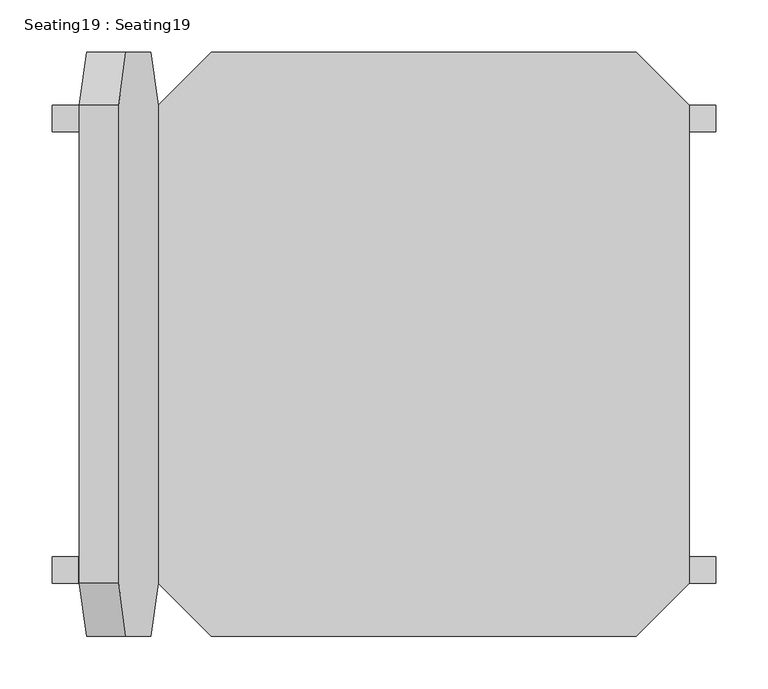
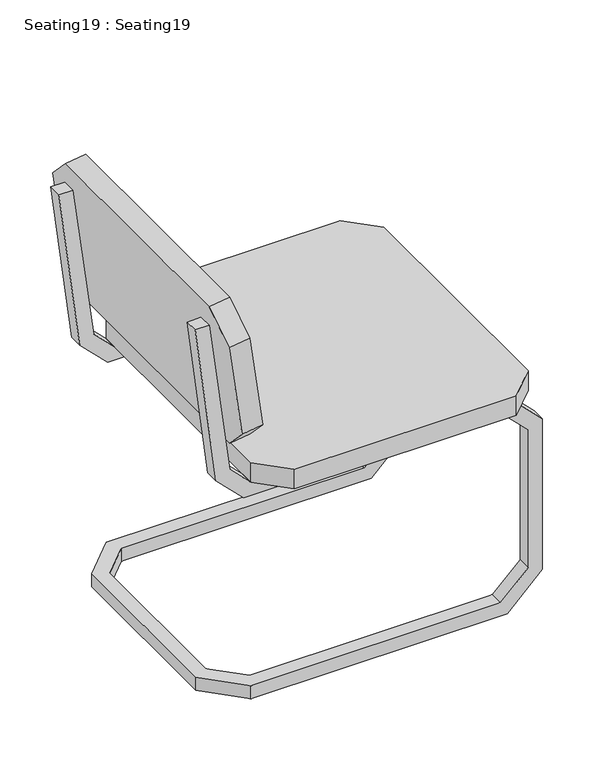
"""IFC4 building model written with IfcOpenShell, lengths in millimetres: furniture geometry, Seating19 : Seating19."""

from ifc_helpers import new_model, si_unit, origin, place, context, project, spatial, triangles, source, transform, mapped, element, save


def seating19_seating19_2658793b(model_context):
    return source(origin(), model_context, "Body", "Tessellation", [
        triangles([(-507.9999879, -228.6000182, 25.4000212), (-507.9999879, -228.6000182, 2e-05), (-50.8000015, -228.6000182, 25.4000212), (-38.1, -228.6000182, 2e-05), (0.0, -228.6000182, 76.2000182), (25.4000008, -228.6000182, 63.5000167), (0.0, -228.6, 342.9000363), (25.4000008, -228.6, 355.6000242), (-50.8000015, -228.6, 393.7000242), (-38.1, -228.6, 419.1), (-507.9999879, -228.6, 419.1), (-520.7000121, -228.6, 393.7000242), (-546.0999879, -228.6, 457.2), (-571.5, -228.6, 444.5000121), (-584.1999879, -228.5999818, 749.2999758), (-609.6, -228.5999818, 749.2999758), (-584.1999879, -203.1999697, 749.2999758), (-546.0999879, -203.1999879, 457.2), (-609.6, -203.1999697, 749.2999758), (-571.5, -203.1999879, 444.5000121), (-507.9999879, -203.2000061, 419.1), (-520.7000121, -203.2000061, 393.7000242), (-50.8000015, -203.2000061, 393.7000242), (-38.1, -203.2000061, 419.1), (0.0, -203.2000061, 342.9000363), (25.4000008, -203.2000061, 355.6000242), (0.0, -203.2000242, 76.2000182), (25.4000008, -203.2000242, 63.5000167), (-50.8000015, -203.2000242, 25.4000189), (-38.1, -203.2000242, 1.78e-05), (-495.3, -203.2000242, 1.78e-05), (-495.3, -203.2000242, 25.4000189), (-571.5, -165.1000424, 25.4000144), (-546.0999879, -152.4000363, 25.4000121), (-571.5, 165.0999697, 25.3999849), (-546.0999879, 152.3999637, 25.3999871), (-571.5, -165.1000424, 1.44e-05), (-571.5, 165.0999697, -1.44e-05), (-546.0999879, 152.3999637, -1.33e-05), (-546.0999879, -152.4000363, 1.33e-05), (0.0, 228.5999818, 76.1999818), (0.0, 203.1999697, 76.1999818), (0.0, 203.2000061, 342.8999637), (0.0, 228.6, 342.8999637), (-50.8000015, 228.5999818, 25.3999803), (-50.8000015, 203.1999697, 25.3999826), (-507.9999879, 228.5999818, 25.3999803), (-495.3, 203.1999697, 25.3999826), (-38.1, 228.5999818, -2e-05), (-38.1, 203.1999697, -1.78e-05), (-495.3, 203.1999697, -1.78e-05), (-507.9999879, 228.5999818, -2e-05), (25.4000008, 228.5999818, 63.4999803), (25.4000008, 203.1999697, 63.4999803), (25.4000008, 228.6, 355.5999879), (25.4000008, 203.2000061, 355.5999879), (-50.8000015, 203.2000061, 393.6999879), (-50.8000015, 228.6, 393.6999879), (-520.7000121, 203.2000061, 393.6999879), (-520.7000121, 228.6, 393.6999879), (-571.5, 203.2000061, 444.5000121), (-571.5, 228.6, 444.5000121), (-609.6, 203.2000242, 749.2999758), (-609.6, 228.6000182, 749.2999758), (-584.1999879, 203.2000242, 749.2999758), (-584.1999879, 228.6000182, 749.2999758), (-38.1, 228.6, 419.1), (-38.1, 203.2000061, 419.1), (-507.9999879, 228.6, 419.1), (-507.9999879, 203.2000061, 419.1), (-546.0999879, 228.6, 457.2), (-546.0999879, 203.2000061, 457.2)], [[1, 2, 3], [4, 3, 2], [5, 3, 6], [4, 6, 3], [7, 5, 8], [6, 8, 5], [9, 7, 8], [8, 10, 9], [11, 12, 9], [9, 10, 11], [11, 13, 14], [14, 12, 11], [13, 15, 16], [16, 14, 13], [17, 18, 19], [20, 19, 18], [18, 21, 20], [22, 20, 21], [22, 21, 23], [24, 23, 21], [25, 23, 26], [24, 26, 23], [27, 25, 26], [26, 28, 27], [29, 27, 28], [28, 30, 29], [31, 32, 29], [29, 30, 31], [17, 15, 18], [13, 18, 15], [18, 13, 11], [11, 21, 18], [21, 11, 24], [10, 24, 11], [24, 10, 8], [8, 26, 24], [19, 16, 17], [15, 17, 16], [16, 19, 20], [20, 14, 16], [14, 20, 12], [22, 12, 20], [12, 22, 23], [23, 9, 12], [23, 25, 7], [7, 9, 23], [26, 8, 28], [6, 28, 8], [28, 6, 4], [4, 30, 28], [30, 4, 31], [2, 31, 4], [32, 1, 29], [3, 29, 1], [29, 3, 5], [5, 27, 29], [27, 5, 25], [7, 25, 5], [33, 1, 34], [32, 34, 1], [35, 33, 36], [34, 36, 33], [37, 38, 39], [39, 40, 37], [2, 37, 40], [40, 31, 2], [32, 31, 34], [40, 34, 31], [34, 40, 39], [39, 36, 34], [2, 1, 33], [33, 37, 2], [37, 33, 38], [35, 38, 33], [41, 42, 43], [43, 44, 41], [45, 46, 41], [42, 41, 46], [47, 48, 46], [46, 45, 47], [49, 50, 51], [51, 52, 49], [53, 54, 49], [50, 49, 54], [55, 56, 54], [54, 53, 55], [43, 57, 44], [58, 44, 57], [59, 60, 57], [58, 57, 60], [61, 62, 60], [60, 59, 61], [63, 64, 61], [62, 61, 64], [64, 63, 65], [65, 66, 64], [67, 68, 55], [56, 55, 68], [69, 70, 68], [68, 67, 69], [71, 72, 69], [70, 69, 72], [66, 65, 72], [72, 71, 66], [48, 51, 46], [50, 46, 51], [42, 46, 54], [50, 54, 46], [43, 42, 56], [54, 56, 42], [57, 43, 56], [56, 68, 57], [70, 59, 57], [57, 68, 70], [70, 72, 61], [61, 59, 70], [72, 65, 63], [63, 61, 72], [66, 71, 64], [62, 64, 71], [71, 69, 62], [60, 62, 69], [60, 69, 58], [67, 58, 69], [44, 58, 55], [67, 55, 58], [41, 44, 55], [55, 53, 41], [45, 41, 53], [53, 49, 45], [52, 47, 45], [45, 49, 52], [47, 52, 35], [38, 35, 52], [51, 48, 36], [36, 39, 51], [38, 52, 39], [51, 39, 52], [47, 35, 36], [36, 48, 47]]),
        triangles([(0.0, -228.6000182, 419.1), (-507.9999879, -228.6000182, 419.1), (-507.9999879, 228.5999818, 419.1), (0.0, 228.5999818, 419.1), (-457.2, -279.4000242, 419.1000363), (-50.8000015, -279.4000242, 419.1000363), (-457.2, 279.3999697, 419.0999637), (-50.8000015, 279.3999697, 419.0999637), (-583.5984984, 228.6000182, 784.8722231), (-576.780528, 279.4000061, 734.5317638), (-552.9178857, 279.4000061, 558.3403381), (-546.0999879, 228.6, 507.9999879), (-576.780528, -279.4000061, 734.5318365), (-583.5984984, -228.5999818, 784.8722231), (-546.0999879, -228.6, 507.9999879), (-552.9178857, -279.4000061, 558.3404471), (-545.8431722, -228.5999818, 789.9856464), (-508.344698, -228.6, 513.1134476), (-545.8431722, 228.6000182, 789.9856464), (-508.344698, 228.6, 513.1134476), (-539.025238, -279.4000061, 739.6453325), (-515.1625957, -279.4000061, 563.4538705), (-539.025238, 279.4000061, 739.6451872), (-515.1625957, 279.4000061, 563.4537978), (-457.2, 279.3999697, 457.1999637), (-507.9999879, 228.5999818, 457.2), (-50.8000015, 279.3999697, 457.1999637), (0.0, 228.5999818, 457.2), (-507.9999879, -228.6000182, 457.2), (-457.2, -279.4000242, 457.2000363), (0.0, -228.6000182, 457.2), (-50.8000015, -279.4000242, 457.2000363)], [[1, 2, 3], [3, 4, 1], [5, 2, 1], [1, 6, 5], [3, 7, 8], [8, 4, 3], [9, 10, 11], [11, 12, 9], [13, 14, 15], [15, 16, 13], [15, 14, 9], [9, 12, 15], [17, 18, 19], [20, 19, 18], [17, 21, 18], [22, 18, 21], [23, 19, 24], [20, 24, 19], [25, 26, 27], [28, 27, 26], [29, 30, 31], [32, 31, 30], [29, 31, 26], [28, 26, 31], [8, 27, 4], [28, 4, 27], [4, 28, 31], [31, 1, 4], [1, 31, 6], [32, 6, 31], [6, 32, 30], [30, 5, 6], [5, 30, 2], [29, 2, 30], [2, 29, 26], [26, 3, 2], [3, 26, 7], [25, 7, 26], [7, 25, 27], [27, 8, 7], [11, 24, 12], [20, 12, 24], [12, 20, 18], [18, 15, 12], [15, 18, 16], [22, 16, 18], [16, 22, 21], [21, 13, 16], [13, 21, 14], [17, 14, 21], [14, 17, 19], [19, 9, 14], [9, 19, 10], [23, 10, 19], [10, 23, 24], [24, 11, 10]]),
    ])


if __name__ == "__main__":
    model = new_model("IFC4")
    model_context = context("Model", 3, world=origin())
    ifc_project = project(units=[si_unit("LENGTHUNIT", "METRE", prefix="MILLI")], contexts=[model_context])
    site = spatial("IfcSite", under=ifc_project)
    building = spatial("IfcBuilding", under=site)
    placement = place(None, origin())
    seating19_seating19_shape = seating19_seating19_2658793b(model_context)
    element("IfcFurniture", 1, ObjectType="Seating19 : Seating19", at=placement, inside=building, context=model_context, shape_type="MappedRepresentation", body=[
        mapped(seating19_seating19_shape, transform((0.0, 0.0, 0.0), x_axis=(1.0, 0.0, 0.0), y_axis=(0.0, 1.0, 0.0), z_axis=(0.0, 0.0, 1.0))),
    ])
    save(model, "model.ifc")
